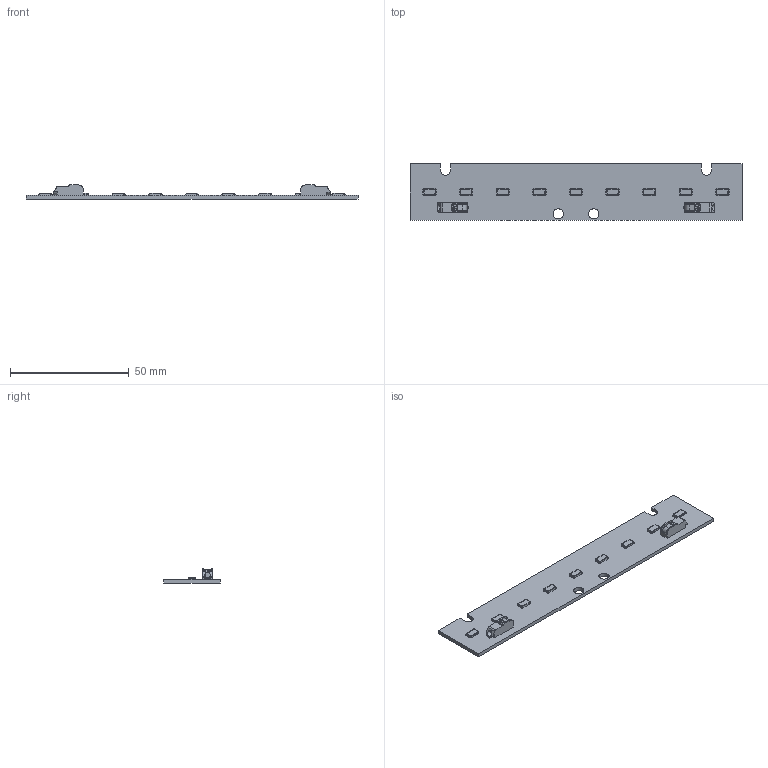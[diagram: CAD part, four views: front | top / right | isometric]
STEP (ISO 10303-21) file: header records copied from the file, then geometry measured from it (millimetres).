
FILE_DESCRIPTION (( 'STEP AP203' ), '1' );
FILE_NAME ('led_module LP142.STEP', '2017-10-20T08:29:14', ( '' ), ( '' ), 'SwSTEP 2.0', 'SolidWorks 2014', '' );
FILE_SCHEMA (( 'CONFIG_CONTROL_DESIGN' ));
Length unit declared in the file: millimetre
Products named in the file (4): 75748A; 7800175; LM561B; led_module LP142
Assembly tree (12 placements, depth 2):
  led_module LP142
    75748A
    7800175  x2
    LM561B  x9
Bounding box: 140 x 24 x 5.95 mm (x, y, z)
Volume: 5720.9 mm3; surface area: 8556.9 mm2
Topology: 66 solids, 66 shells, 738 faces, 1796 edges, 1196 vertices
Faces by surface type: plane 564, cylinder 136, cone 36, bspline 2
Entity records: 6122 total; most frequent: CARTESIAN_POINT 1060, ORIENTED_EDGE 920, DIRECTION 908, EDGE_CURVE 460, LINE 352, VECTOR 352, VERTEX_POINT 306, AXIS2_PLACEMENT_3D 278
